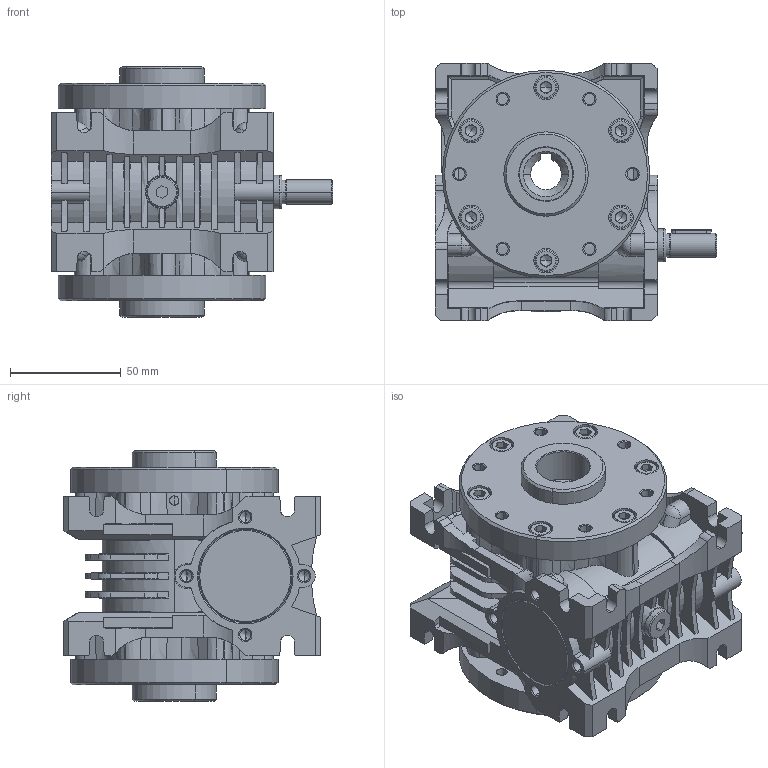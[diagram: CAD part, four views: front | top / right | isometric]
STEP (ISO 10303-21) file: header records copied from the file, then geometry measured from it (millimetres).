
FILE_DESCRIPTION (( 'STEP AP203' ), '1' );
FILE_NAME ('MRP-32_WBS_SO-2.STEP', '2022-11-30T14:08:23', ( '' ), ( '' ), 'SwSTEP 2.0', 'SolidWorks 2022', '' );
FILE_SCHEMA (( 'CONFIG_CONTROL_DESIGN' ));
Products named in the file (1): MRP-32_WBS_SO-2
Bounding box: 127 x 116 x 113 mm (x, y, z)
Volume: 632932.1 mm3; surface area: 142355.5 mm2
Topology: 1 solids, 40 shells, 2231 faces, 5484 edges, 3340 vertices
Faces by surface type: plane 713, cylinder 591, cone 507, torus 291, bspline 102, sphere 27
Entity records: 68086 total; most frequent: CARTESIAN_POINT 16407, DIRECTION 11022, ORIENTED_EDGE 10840, EDGE_CURVE 5420, AXIS2_PLACEMENT_3D 4287, VERTEX_POINT 3340, LINE 2448, VECTOR 2448
